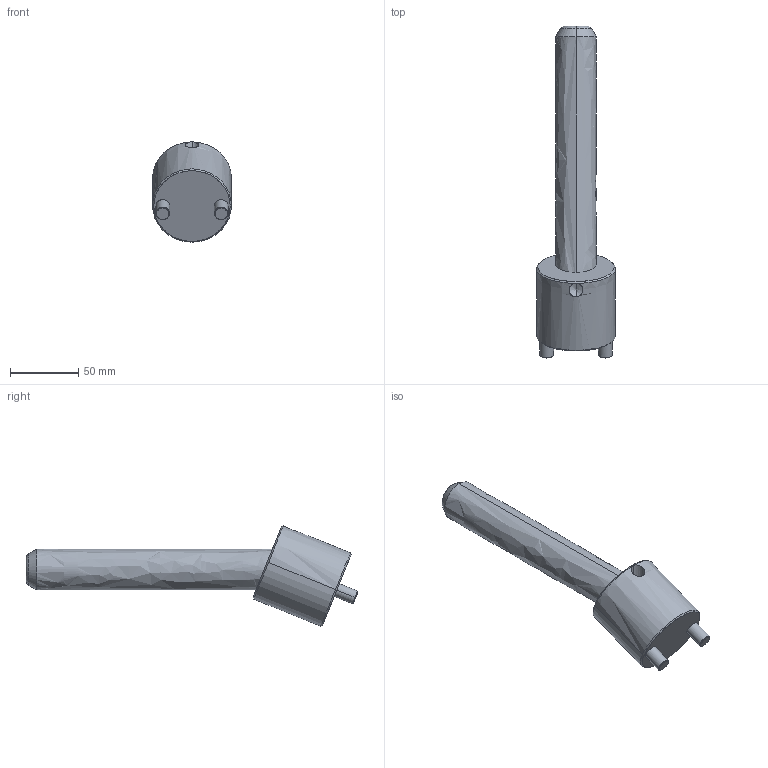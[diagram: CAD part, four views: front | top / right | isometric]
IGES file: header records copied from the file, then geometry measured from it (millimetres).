
Start section: START RECORD GO HERE.
Global section: file name: CI2230175.igs; native system: DASSAULT SYSTEMES CATIA V5 R20 - www.3ds.com; preprocessor: CATIA Version 5 Release 20 ; author: r.borello; organization: CFTORINO; date: 20190624.090009; units: millimetre
Bounding box: 58 x 243.84 x 73.63 mm (x, y, z)
Surface area: 42504.8 mm2 (no closed solid volume)
Topology: 0 solids, 0 shells, 39 faces, 168 edges, 166 vertices
Faces by surface type: revolution 32, plane 7
